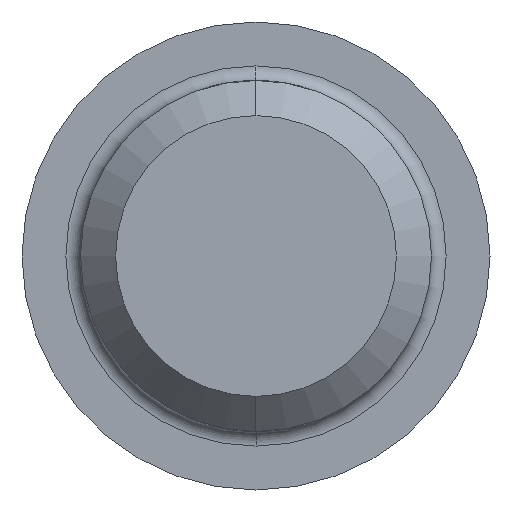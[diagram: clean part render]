
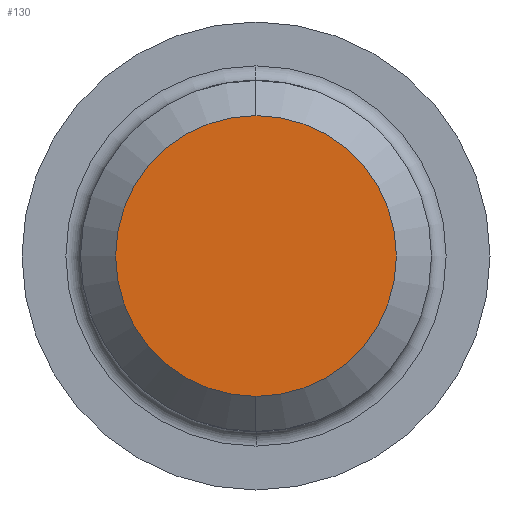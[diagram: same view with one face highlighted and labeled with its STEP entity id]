
A CAD part, left-side view. The second image highlights one B-rep face of the part: STEP entity #130.
In plain terms, the highlighted planar face has unit normal (-1, 0, 0).
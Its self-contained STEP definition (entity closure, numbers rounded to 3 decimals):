
#62 = EDGE_CURVE ( 'NONE', #104, #64, #266, .T. ) ;
#64 = VERTEX_POINT ( 'NONE', #223 ) ;
#104 = VERTEX_POINT ( 'NONE', #473 ) ;
#120 = EDGE_CURVE ( 'NONE', #64, #104, #475, .T. ) ;
#130 = ADVANCED_FACE ( 'NONE', ( #381 ), #383, .F. ) ;
#131 = EDGE_LOOP ( 'NONE', ( #145, #146 ) ) ;
#145 = ORIENTED_EDGE ( 'NONE', *, *, #120, .T. ) ;
#146 = ORIENTED_EDGE ( 'NONE', *, *, #62, .T. ) ;
#223 = CARTESIAN_POINT ( 'NONE',  ( -35., 0., -4.8 ) ) ;
#253 = DIRECTION ( 'NONE',  ( 0., 0., 1. ) ) ;
#254 = DIRECTION ( 'NONE',  ( -1., 0., 0. ) ) ;
#255 = AXIS2_PLACEMENT_3D ( 'NONE', #265, #254, #253 ) ;
#265 = CARTESIAN_POINT ( 'NONE',  ( -35., 0., 0. ) ) ;
#266 = CIRCLE ( 'NONE', #255, 4.8 ) ;
#381 = FACE_OUTER_BOUND ( 'NONE', #131, .T. ) ;
#383 = PLANE ( 'NONE',  #418 ) ;
#412 = DIRECTION ( 'NONE',  ( 0., 0., -1. ) ) ;
#413 = DIRECTION ( 'NONE',  ( 1., 0., 0. ) ) ;
#414 = CARTESIAN_POINT ( 'NONE',  ( -35., 4.8, 0. ) ) ;
#418 = AXIS2_PLACEMENT_3D ( 'NONE', #414, #413, #412 ) ;
#430 = DIRECTION ( 'NONE',  ( 0., 0., 1. ) ) ;
#431 = DIRECTION ( 'NONE',  ( -1., 0., 0. ) ) ;
#435 = CARTESIAN_POINT ( 'NONE',  ( -35., 0., 0. ) ) ;
#463 = AXIS2_PLACEMENT_3D ( 'NONE', #435, #431, #430 ) ;
#473 = CARTESIAN_POINT ( 'NONE',  ( -35., 0., 4.8 ) ) ;
#475 = CIRCLE ( 'NONE', #463, 4.8 ) ;
